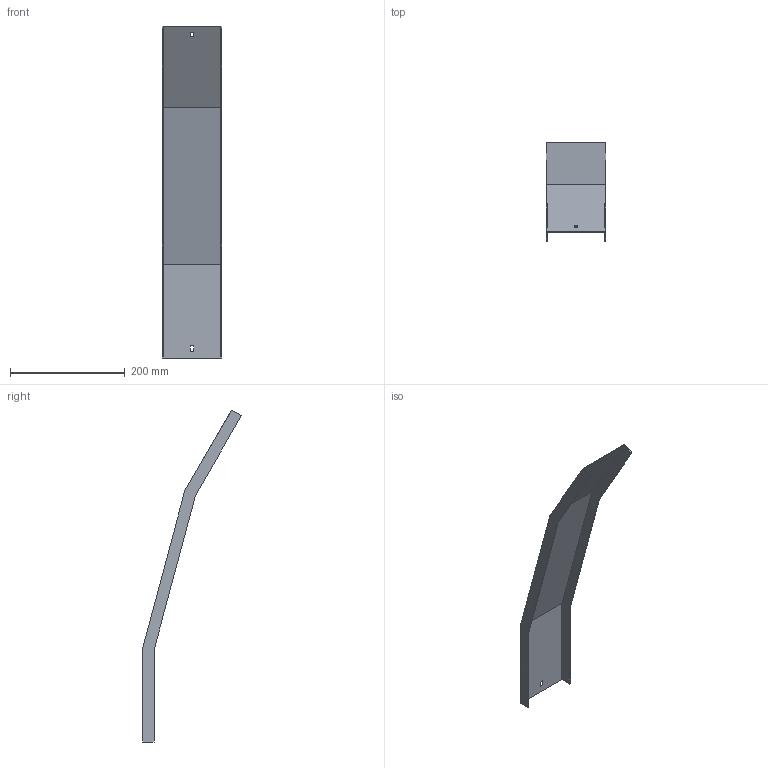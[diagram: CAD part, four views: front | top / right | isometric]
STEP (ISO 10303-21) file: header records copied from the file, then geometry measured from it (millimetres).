
FILE_DESCRIPTION (( 'STEP AP214' ), '1' );
FILE_NAME ('35N5C100.step', '2025-02-21T10:28:23', ( '' ), ( '' ), 'SwSTEP 2.0', 'SolidWorks 2023', '' );
FILE_SCHEMA (( 'AUTOMOTIVE_DESIGN' ));
Length unit declared in the file: millimetre
Products named in the file (1): 35N5C100
Bounding box: 103 x 172.21 x 578.06 mm (x, y, z)
Volume: 127451.1 mm3; surface area: 172245.9 mm2
Topology: 1 solids, 1 shells, 26 faces, 72 edges, 48 vertices
Faces by surface type: plane 26
Entity records: 847 total; most frequent: CARTESIAN_POINT 147, ORIENTED_EDGE 144, DIRECTION 126, LINE 72, EDGE_CURVE 72, VECTOR 72, VERTEX_POINT 48, EDGE_LOOP 30
